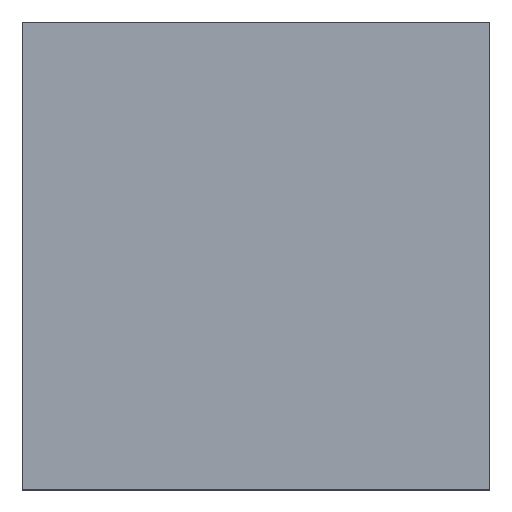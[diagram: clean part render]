
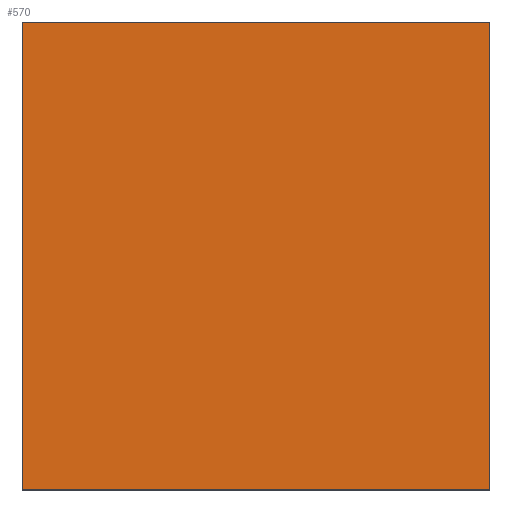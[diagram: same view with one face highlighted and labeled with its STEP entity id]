
A CAD part, top view. The second image highlights one B-rep face of the part: STEP entity #570.
In plain terms, the highlighted planar face has unit normal (0, 0, 1).
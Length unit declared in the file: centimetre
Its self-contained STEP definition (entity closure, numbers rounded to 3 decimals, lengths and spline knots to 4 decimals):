
#17 = FACE_OUTER_BOUND ( 'NONE', #552, .T. ) ;
#44 = LINE ( 'NONE', #304, #603 ) ;
#141 = DIRECTION ( 'NONE',  ( 0., -1., 0. ) ) ;
#154 = CARTESIAN_POINT ( 'NONE',  ( 1000., 1000., 1000. ) ) ;
#195 = CARTESIAN_POINT ( 'NONE',  ( 0., 1000., 1000. ) ) ;
#217 = VERTEX_POINT ( 'NONE', #641 ) ;
#249 = DIRECTION ( 'NONE',  ( -1., 0., 0. ) ) ;
#255 = DIRECTION ( 'NONE',  ( 0., 1., 0. ) ) ;
#272 = VECTOR ( 'NONE', #573, 100. ) ;
#288 = DIRECTION ( 'NONE',  ( 0., 0., 1. ) ) ;
#304 = CARTESIAN_POINT ( 'NONE',  ( 0., 1000., 1000. ) ) ;
#318 = EDGE_CURVE ( 'NONE', #217, #548, #362, .T. ) ;
#337 = EDGE_CURVE ( 'NONE', #598, #217, #584, .T. ) ;
#362 = LINE ( 'NONE', #154, #659 ) ;
#376 = ORIENTED_EDGE ( 'NONE', *, *, #475, .T. ) ;
#378 = EDGE_CURVE ( 'NONE', #465, #598, #44, .T. ) ;
#391 = AXIS2_PLACEMENT_3D ( 'NONE', #613, #288, #671 ) ;
#450 = CARTESIAN_POINT ( 'NONE',  ( 0., 0., 1000. ) ) ;
#461 = CARTESIAN_POINT ( 'NONE',  ( 0., 1000., 1000. ) ) ;
#465 = VERTEX_POINT ( 'NONE', #461 ) ;
#475 = EDGE_CURVE ( 'NONE', #548, #465, #633, .T. ) ;
#493 = VECTOR ( 'NONE', #249, 100. ) ;
#519 = ORIENTED_EDGE ( 'NONE', *, *, #378, .T. ) ;
#532 = CARTESIAN_POINT ( 'NONE',  ( 0., 0., 1000. ) ) ;
#548 = VERTEX_POINT ( 'NONE', #663 ) ;
#552 = EDGE_LOOP ( 'NONE', ( #519, #626, #662, #376 ) ) ;
#559 = PLANE ( 'NONE',  #391 ) ;
#570 = ADVANCED_FACE ( 'NONE', ( #17 ), #559, .T. ) ;
#573 = DIRECTION ( 'NONE',  ( 1., 0., 0. ) ) ;
#584 = LINE ( 'NONE', #532, #272 ) ;
#598 = VERTEX_POINT ( 'NONE', #450 ) ;
#603 = VECTOR ( 'NONE', #141, 100. ) ;
#613 = CARTESIAN_POINT ( 'NONE',  ( 0., 0., 1000. ) ) ;
#626 = ORIENTED_EDGE ( 'NONE', *, *, #337, .T. ) ;
#633 = LINE ( 'NONE', #195, #493 ) ;
#641 = CARTESIAN_POINT ( 'NONE',  ( 1000., 0., 1000. ) ) ;
#659 = VECTOR ( 'NONE', #255, 100. ) ;
#662 = ORIENTED_EDGE ( 'NONE', *, *, #318, .T. ) ;
#663 = CARTESIAN_POINT ( 'NONE',  ( 1000., 1000., 1000. ) ) ;
#671 = DIRECTION ( 'NONE',  ( 1., 0., 0. ) ) ;
